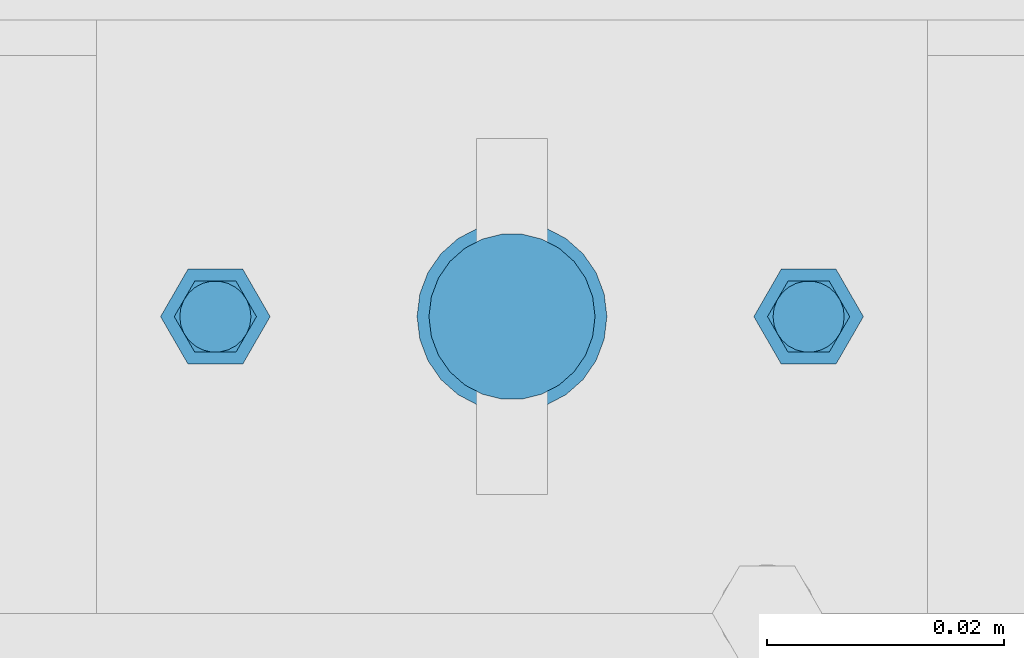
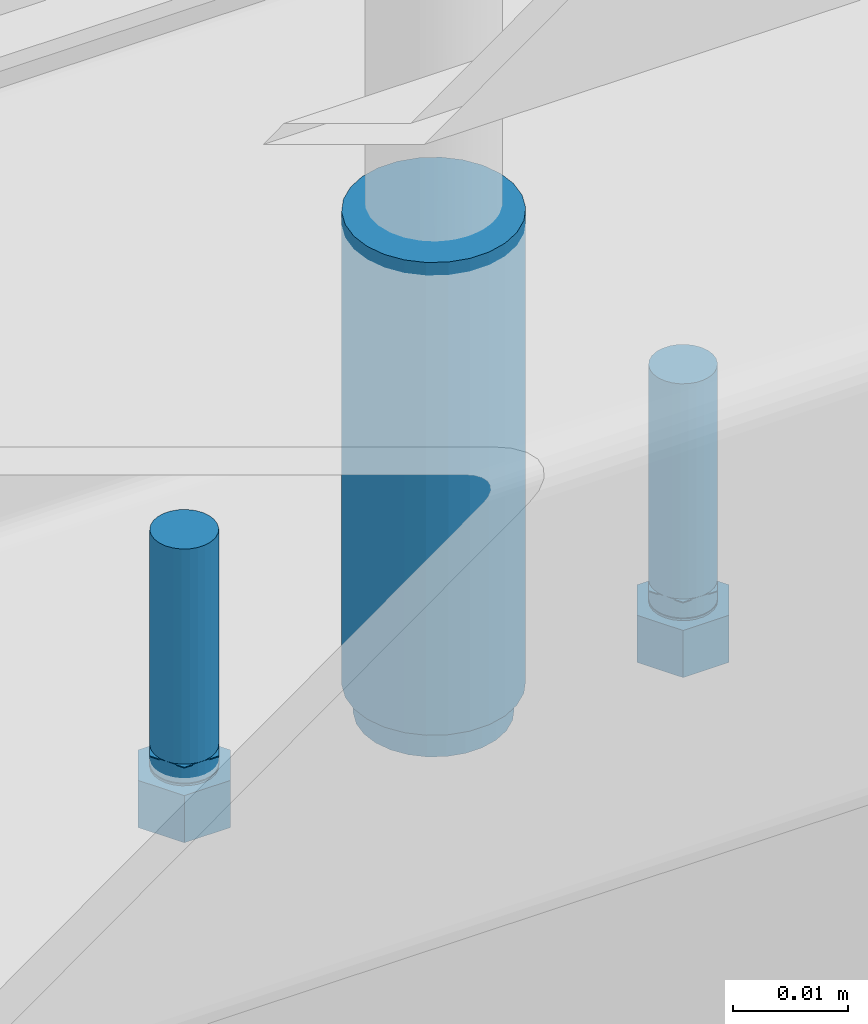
# One storey, part 67 of 91: 6 mechanical fasteners, 2 elements without a shape of their own.
"""IFC2X3 building model written with IfcOpenShell, lengths in millimetres."""

from ifc_helpers import new_model, si_unit, frame, origin_with_axes, origin_2d_with_axis, place, context, subcontext, project, spatial, polyline, circle, outline, extrude, source, transform, mapped, material, type_object, element, aggregate, save


model = new_model("IFC2X3")

# Units and contexts
model_context = context("Model", 3, precision=1e-05, world=origin_with_axes())
body_context = subcontext(model_context, "Body", "Model", "MODEL_VIEW")
ifc_project = project(units=[si_unit("LENGTHUNIT", "METRE", prefix="MILLI"), si_unit("AREAUNIT", "SQUARE_METRE"), si_unit("VOLUMEUNIT", "CUBIC_METRE"), si_unit("MASSUNIT", "GRAM", prefix="KILO"), si_unit("TIMEUNIT", "SECOND"), si_unit("PLANEANGLEUNIT", "RADIAN"), si_unit("SOLIDANGLEUNIT", "STERADIAN"), si_unit("THERMODYNAMICTEMPERATUREUNIT", "DEGREE_CELSIUS"), si_unit("LUMINOUSINTENSITYUNIT", "LUMEN")], contexts=[model_context])

# Site, building, storey
site_placement = place(None, origin_with_axes())
site = spatial("IfcSite", under=ifc_project, at=site_placement, Name="Undefined", CompositionType="ELEMENT")
building_placement = place(site_placement, origin_with_axes())
building = spatial("IfcBuilding", under=site, at=building_placement, Name="Undefined", CompositionType="ELEMENT")
storey_placement = place(building_placement, origin_with_axes())
storey = spatial("IfcBuildingStorey", under=building, at=storey_placement, Name="Undefined", CompositionType="ELEMENT", Elevation=0.0)

# Assembly, mechanical fasteners
assembly_1_placement = place(storey_placement, origin_with_axes())
assembly_1 = element("IfcElementAssembly", 1, at=assembly_1_placement, inside=storey, Name="ROD", AssemblyPlace="NOTDEFINED", PredefinedType="RIGID_FRAME")
ifc_material_1 = material(Name="8.8S")
discrete_accessory_type = type_object("IfcDiscreteAccessoryType", Name="Bolt assembly")
shared_shape_1 = source(origin_with_axes(), body_context, "Body", "SweptSolid", [
    extrude(circle(Radius=3.0, at=origin_2d_with_axis()), frame((0.0, -1.0, 0.0), z_axis=(0.0, 1.0, 0.0), x_axis=(1.0, 0.0, 0.0)), (0.0, 0.0, 1.0), 3.1),
])
mechanical_fastener_1_placement = place(assembly_1_placement, frame((-107833.34, 87712.15, 3324.0), z_axis=(0.0, 1.0, 0.0), x_axis=(-1.0, 0.0, 0.0)))
mechanical_fastener_1 = element("IfcMechanicalFastener", 2, at=mechanical_fastener_1_placement, type_object=discrete_accessory_type, material=ifc_material_1, Name="Bolt assembly", NominalDiameter=6.0, NominalLength=3.0, context=body_context, shape_type="MappedRepresentation", body=[
    mapped(shared_shape_1, transform((0.0, 0.0, 0.0))),
])
mechanical_fastener_2_placement = place(assembly_1_placement, frame((-107883.34, 87712.15, 3324.0), z_axis=(0.0, -1.0, 0.0), x_axis=(1.0, 0.0, 0.0)))
mechanical_fastener_2 = element("IfcMechanicalFastener", 3, at=mechanical_fastener_2_placement, type_object=discrete_accessory_type, material=ifc_material_1, Name="Bolt assembly", NominalDiameter=6.0, NominalLength=3.0, context=body_context, shape_type="MappedRepresentation", body=[
    mapped(shared_shape_1, transform((0.0, 0.0, 0.0))),
])
shared_shape_2 = source(origin_with_axes(), body_context, "Body", "SweptSolid", [
    extrude(circle(Radius=7.0, at=origin_2d_with_axis()), frame((0.0, -1.0, 0.0), z_axis=(0.0, 1.0, 0.0), x_axis=(1.0, 0.0, 0.0)), (0.0, 0.0, 1.0), 3.1),
])
mechanical_fastener_3_placement = place(assembly_1_placement, frame((-107858.34, 87712.15, 3324.0), z_axis=(0.0, -1.0, 0.0), x_axis=(1.0, 0.0, 0.0)))
mechanical_fastener_3 = element("IfcMechanicalFastener", 4, at=mechanical_fastener_3_placement, type_object=discrete_accessory_type, material=ifc_material_1, Name="Bolt assembly", NominalDiameter=12.0, NominalLength=3.0, context=body_context, shape_type="MappedRepresentation", body=[
    mapped(shared_shape_2, transform((0.0, 0.0, 0.0))),
])
aggregate(assembly_1, [mechanical_fastener_1, mechanical_fastener_2, mechanical_fastener_3])

assembly_2_placement = place(storey_placement, origin_with_axes())
assembly_2 = element("IfcElementAssembly", 5, at=assembly_2_placement, inside=storey, Name="SLIDING DOOR", AssemblyPlace="NOTDEFINED", PredefinedType="RIGID_FRAME")
ifc_material_2 = material(Name="TEK_11TPIM")
shared_shape_3 = source(origin_with_axes(), body_context, "Body", "SweptSolid", [
    extrude(circle(Radius=3.0, at=origin_2d_with_axis()), frame((0.0, 0.0, 0.0), z_axis=(0.0, 1.0, 0.0), x_axis=(1.0, 0.0, 0.0)), (0.0, 0.0, 1.0), 2.1),
    extrude(outline(polyline([(4.61880215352, 0.0), (2.30940107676, 4.00000000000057), (-2.30940107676, 4.00000000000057), (-4.61880215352, 0.0), (-2.30940107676, -4.00000000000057), (2.30940107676, -4.00000000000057), (4.61880215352, 0.0)])), frame((0.0, -5.0, 0.0), z_axis=(0.0, 1.0, 0.0), x_axis=(1.0, 0.0, 0.0)), (0.0, 0.0, 1.0), 5.0),
    extrude(circle(Radius=3.0, at=origin_2d_with_axis()), frame((0.0, 0.0, 0.0), z_axis=(0.0, 1.0, 0.0), x_axis=(1.0, 0.0, 0.0)), (0.0, 0.0, 1.0), 25.0),
    extrude(circle(Radius=3.0, at=origin_2d_with_axis()), frame((0.0, 2.00000000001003, 0.0), z_axis=(0.0, 1.0, 0.0), x_axis=(1.0, 0.0, 0.0)), (0.0, 0.0, 1.0), 0.1),
    extrude(outline(polyline([(3.46410161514, 0.0), (1.73205080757, 3.00000000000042), (-1.73205080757, 3.00000000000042), (-3.46410161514, 0.0), (-1.73205080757, -3.00000000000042), (1.73205080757, -3.00000000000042), (3.46410161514, 0.0)])), frame((0.0, 2.10000000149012, 0.0), z_axis=(0.0, 1.0, 0.0), x_axis=(1.0, 0.0, 0.0)), (0.0, 0.0, 1.0), 0.1),
])
mechanical_fastener_4_placement = place(assembly_2_placement, frame((-107833.34, 87712.15, 3326.0), z_axis=(0.0, 1.0, 0.0), x_axis=(-1.0, 0.0, 0.0)))
mechanical_fastener_4 = element("IfcMechanicalFastener", 6, at=mechanical_fastener_4_placement, type_object=discrete_accessory_type, material=ifc_material_2, Name="Bolt assembly", NominalDiameter=6.0, NominalLength=25.0, context=body_context, shape_type="MappedRepresentation", body=[
    mapped(shared_shape_3, transform((0.0, 0.0, 0.0))),
])
mechanical_fastener_5_placement = place(assembly_2_placement, frame((-107883.34, 87712.15, 3326.0), z_axis=(0.0, -1.0, 0.0), x_axis=(1.0, 0.0, 0.0)))
mechanical_fastener_5 = element("IfcMechanicalFastener", 7, at=mechanical_fastener_5_placement, type_object=discrete_accessory_type, material=ifc_material_2, Name="Bolt assembly", NominalDiameter=6.0, NominalLength=25.0, context=body_context, shape_type="MappedRepresentation", body=[
    mapped(shared_shape_3, transform((0.0, 0.0, 0.0))),
])
shared_shape_4 = source(origin_with_axes(), body_context, "Body", "SweptSolid", [
    extrude(circle(Radius=8.0, at=origin_2d_with_axis()), frame((0.0, 0.0, 0.0), z_axis=(0.0, 1.0, 0.0), x_axis=(1.0, 0.0, 0.0)), (0.0, 0.0, 1.0), 50.1),
])
mechanical_fastener_6_placement = place(assembly_2_placement, frame((-107858.34, 87712.15, 3326.0), z_axis=(0.0, 1.0, 0.0), x_axis=(-1.0, 0.0, 0.0)))
mechanical_fastener_6 = element("IfcMechanicalFastener", 8, at=mechanical_fastener_6_placement, type_object=discrete_accessory_type, material=ifc_material_1, Name="Bolt assembly", NominalDiameter=10.0, NominalLength=50.0, context=body_context, shape_type="MappedRepresentation", body=[
    mapped(shared_shape_4, transform((0.0, 0.0, 0.0))),
])
aggregate(assembly_2, [mechanical_fastener_4, mechanical_fastener_5, mechanical_fastener_6])

save(model, "model.ifc")
